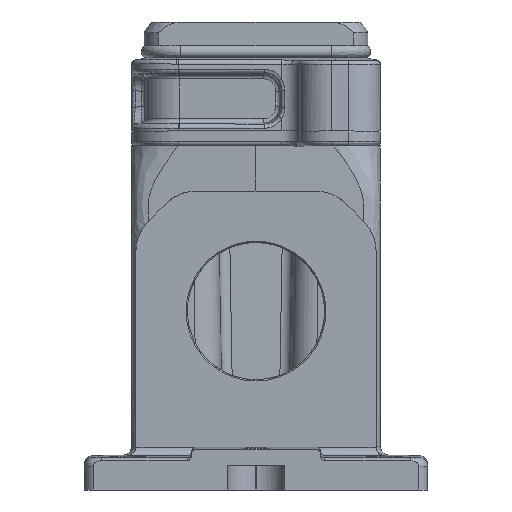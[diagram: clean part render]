
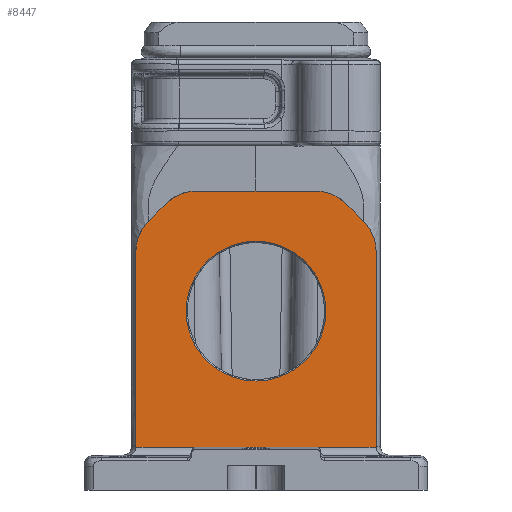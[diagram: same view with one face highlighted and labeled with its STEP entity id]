
A CAD part, left-side view. The second image highlights one B-rep face of the part: STEP entity #8447.
In plain terms, the highlighted planar face has unit normal (-1, 0, 0).
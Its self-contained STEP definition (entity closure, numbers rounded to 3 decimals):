
#6648=FACE_BOUND('',#10814,.T.);
#6649=FACE_BOUND('',#10815,.T.);
#7210=PLANE('',#27218);
#7544=ELLIPSE('',#27130,2.,2.);
#7565=ELLIPSE('',#27189,2.,2.);
#7575=ELLIPSE('',#27216,1.,1.);
#7576=ELLIPSE('',#27217,1.,1.);
#8447=ADVANCED_FACE('',(#6648,#6649),#7210,.F.);
#10814=EDGE_LOOP('',(#18785));
#10815=EDGE_LOOP('',(#18786,#18787,#18788,#18789,#18790,#18791,#18792,#18793,
#18794,#18795,#18796,#18797,#18798,#18799,#18800,#18801));
#11459=CIRCLE('',#27004,16.3);
#11487=CIRCLE('',#27145,10.);
#11488=CIRCLE('',#27148,10.);
#11503=CIRCLE('',#27204,10.);
#11504=CIRCLE('',#27207,10.);
#12866=LINE('',#41767,#14431);
#12885=LINE('',#41975,#14450);
#12887=LINE('',#41978,#14452);
#12907=LINE('',#42141,#14472);
#12926=LINE('',#42363,#14491);
#12927=LINE('',#42364,#14492);
#12928=LINE('',#42365,#14493);
#12929=LINE('',#42368,#14494);
#14431=VECTOR('',#31345,1.);
#14450=VECTOR('',#31422,1.);
#14452=VECTOR('',#31426,1.);
#14472=VECTOR('',#31506,1.);
#14491=VECTOR('',#31581,1.);
#14492=VECTOR('',#31582,1.);
#14493=VECTOR('',#31583,1.);
#14494=VECTOR('',#31586,1.);
#18785=ORIENTED_EDGE('',*,*,#23620,.T.);
#18786=ORIENTED_EDGE('',*,*,#24025,.F.);
#18787=ORIENTED_EDGE('',*,*,#24009,.T.);
#18788=ORIENTED_EDGE('',*,*,#24026,.F.);
#18789=ORIENTED_EDGE('',*,*,#24013,.T.);
#18790=ORIENTED_EDGE('',*,*,#24027,.F.);
#18791=ORIENTED_EDGE('',*,*,#23922,.F.);
#18792=ORIENTED_EDGE('',*,*,#23934,.T.);
#18793=ORIENTED_EDGE('',*,*,#23919,.F.);
#18794=ORIENTED_EDGE('',*,*,#23936,.T.);
#18795=ORIENTED_EDGE('',*,*,#23890,.F.);
#18796=ORIENTED_EDGE('',*,*,#23886,.F.);
#18797=ORIENTED_EDGE('',*,*,#24028,.F.);
#18798=ORIENTED_EDGE('',*,*,#24029,.T.);
#18799=ORIENTED_EDGE('',*,*,#24030,.T.);
#18800=ORIENTED_EDGE('',*,*,#23977,.T.);
#18801=ORIENTED_EDGE('',*,*,#23982,.T.);
#21273=VERTEX_POINT('',#41083);
#21453=VERTEX_POINT('',#41766);
#21454=VERTEX_POINT('',#41768);
#21457=VERTEX_POINT('',#41781);
#21476=VERTEX_POINT('',#41940);
#21477=VERTEX_POINT('',#41942);
#21480=VERTEX_POINT('',#41949);
#21481=VERTEX_POINT('',#41951);
#21514=VERTEX_POINT('',#42140);
#21515=VERTEX_POINT('',#42142);
#21519=VERTEX_POINT('',#42174);
#21536=VERTEX_POINT('',#42328);
#21537=VERTEX_POINT('',#42330);
#21540=VERTEX_POINT('',#42337);
#21541=VERTEX_POINT('',#42339);
#21550=VERTEX_POINT('',#42367);
#21551=VERTEX_POINT('',#42369);
#23620=EDGE_CURVE('',#21273,#21273,#11459,.T.);
#23886=EDGE_CURVE('',#21453,#21454,#12866,.T.);
#23890=EDGE_CURVE('',#21454,#21457,#7544,.T.);
#23919=EDGE_CURVE('',#21477,#21476,#11487,.T.);
#23922=EDGE_CURVE('',#21480,#21481,#11488,.T.);
#23934=EDGE_CURVE('',#21480,#21476,#12885,.T.);
#23936=EDGE_CURVE('',#21477,#21457,#12887,.T.);
#23977=EDGE_CURVE('',#21515,#21514,#12907,.T.);
#23982=EDGE_CURVE('',#21514,#21519,#7565,.T.);
#24009=EDGE_CURVE('',#21537,#21536,#11503,.T.);
#24013=EDGE_CURVE('',#21541,#21540,#11504,.T.);
#24025=EDGE_CURVE('',#21537,#21519,#12926,.T.);
#24026=EDGE_CURVE('',#21541,#21536,#12927,.T.);
#24027=EDGE_CURVE('',#21481,#21540,#12928,.T.);
#24028=EDGE_CURVE('',#21550,#21453,#7575,.T.);
#24029=EDGE_CURVE('',#21550,#21551,#12929,.T.);
#24030=EDGE_CURVE('',#21551,#21515,#7576,.T.);
#27004=AXIS2_PLACEMENT_3D('',#41082,#30857,#30858);
#27130=AXIS2_PLACEMENT_3D('',#41780,#31351,#31352);
#27145=AXIS2_PLACEMENT_3D('',#41943,#31390,#31391);
#27148=AXIS2_PLACEMENT_3D('',#41950,#31397,#31398);
#27189=AXIS2_PLACEMENT_3D('',#42175,#31510,#31511);
#27204=AXIS2_PLACEMENT_3D('',#42329,#31548,#31549);
#27207=AXIS2_PLACEMENT_3D('',#42338,#31556,#31557);
#27216=AXIS2_PLACEMENT_3D('',#42366,#31584,#31585);
#27217=AXIS2_PLACEMENT_3D('',#42370,#31587,#31588);
#27218=AXIS2_PLACEMENT_3D('',#42371,#31589,#31590);
#30857=DIRECTION('',(1.,0.,0.));
#30858=DIRECTION('',(0.,0.,-1.));
#31345=DIRECTION('',(0.,1.,0.));
#31351=DIRECTION('',(-1.,0.,0.));
#31352=DIRECTION('',(0.,0.,1.));
#31390=DIRECTION('',(1.,0.,0.));
#31391=DIRECTION('',(0.,1.,0.));
#31397=DIRECTION('',(1.,0.,0.));
#31398=DIRECTION('',(0.,1.,0.));
#31422=DIRECTION('',(0.,0.707,-0.707));
#31426=DIRECTION('',(0.,0.,-1.));
#31506=DIRECTION('',(0.,-1.,0.));
#31510=DIRECTION('',(1.,0.,0.));
#31511=DIRECTION('',(0.,0.,1.));
#31548=DIRECTION('',(-1.,0.,0.));
#31549=DIRECTION('',(0.,-1.,0.));
#31556=DIRECTION('',(-1.,0.,0.));
#31557=DIRECTION('',(0.,-1.,0.));
#31581=DIRECTION('',(0.,0.,-1.));
#31582=DIRECTION('',(0.,-0.707,-0.707));
#31583=DIRECTION('',(0.,-1.,0.));
#31584=DIRECTION('',(-1.,0.,0.));
#31585=DIRECTION('',(0.,0.,-1.));
#31586=DIRECTION('',(0.,-1.,0.));
#31587=DIRECTION('',(1.,0.,0.));
#31588=DIRECTION('',(0.,0.,-1.));
#31589=DIRECTION('',(1.,0.,0.));
#31590=DIRECTION('',(0.,-1.,0.));
#41082=CARTESIAN_POINT('',(-49.6,0.,-38.5));
#41083=CARTESIAN_POINT('',(-49.6,0.,-54.8));
#41766=CARTESIAN_POINT('',(-49.6,14.262,-70.235));
#41767=CARTESIAN_POINT('',(-49.6,28.,-70.235));
#41768=CARTESIAN_POINT('',(-49.6,28.,-70.235));
#41780=CARTESIAN_POINT('',(-49.6,30.,-70.2));
#41781=CARTESIAN_POINT('',(-49.6,28.,-70.2));
#41940=CARTESIAN_POINT('',(-49.6,25.071,-17.571));
#41942=CARTESIAN_POINT('',(-49.6,28.,-24.642));
#41943=CARTESIAN_POINT('',(-49.6,18.,-24.642));
#41949=CARTESIAN_POINT('',(-49.6,20.929,-13.429));
#41950=CARTESIAN_POINT('',(-49.6,13.858,-20.5));
#41951=CARTESIAN_POINT('',(-49.6,13.858,-10.5));
#41975=CARTESIAN_POINT('',(-49.6,28.,-20.5));
#41978=CARTESIAN_POINT('',(-49.6,28.,-72.5));
#42140=CARTESIAN_POINT('',(-49.6,-28.,-70.235));
#42141=CARTESIAN_POINT('',(-49.6,-28.,-70.235));
#42142=CARTESIAN_POINT('',(-49.6,-14.262,-70.235));
#42174=CARTESIAN_POINT('',(-49.6,-28.,-70.2));
#42175=CARTESIAN_POINT('',(-49.6,-30.,-70.2));
#42328=CARTESIAN_POINT('',(-49.6,-25.071,-17.571));
#42329=CARTESIAN_POINT('',(-49.6,-18.,-24.642));
#42330=CARTESIAN_POINT('',(-49.6,-28.,-24.642));
#42337=CARTESIAN_POINT('',(-49.6,-13.858,-10.5));
#42338=CARTESIAN_POINT('',(-49.6,-13.858,-20.5));
#42339=CARTESIAN_POINT('',(-49.6,-20.929,-13.429));
#42363=CARTESIAN_POINT('',(-49.6,-28.,-72.5));
#42364=CARTESIAN_POINT('',(-49.6,-28.,-20.5));
#42365=CARTESIAN_POINT('',(-49.6,-18.,-10.5));
#42366=CARTESIAN_POINT('',(-49.6,14.,-71.2));
#42367=CARTESIAN_POINT('',(-49.6,14.,-70.2));
#42368=CARTESIAN_POINT('',(-49.6,-15.,-70.2));
#42369=CARTESIAN_POINT('',(-49.6,-14.,-70.2));
#42370=CARTESIAN_POINT('',(-49.6,-14.,-71.2));
#42371=CARTESIAN_POINT('',(-49.6,-28.,-72.5));
